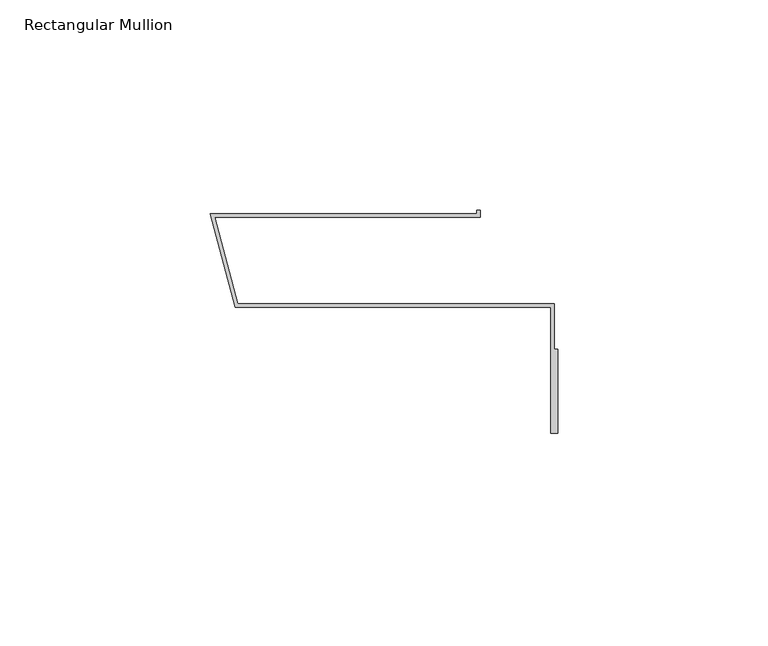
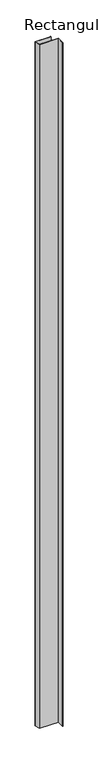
"""IFC4 building model written with IfcOpenShell, lengths in millimetres: member geometry, Rectangular Mullion : TE-V-05_01_Internal corner i L."""

from ifc_helpers import new_model, si_unit, frame, origin, place, context, project, spatial, polyline, outline, extrude, source, transform, mapped, element, save


def rectangular_mullion_a0e06837(model_context):
    return source(origin(), model_context, "Body", "SweptSolid", [
        extrude(outline(polyline([(-1.6, -23.0), (-76.6, -23.0), (-82.5484721, -0.8), (-19.2, -0.8), (-19.2, 0.0), (-18.4, 0.0), (-18.4, -1.6), (-81.5058918, -1.6), (-75.9861384, -22.2), (-0.8, -22.2), (-0.8, -33.0), (0.0, -33.0), (0.0, -53.0), (-1.6, -53.0), (-1.6, -23.0)])), frame((0.0, 0.0, -2885.745084), z_axis=(0.0, 0.0, 1.0), x_axis=(1.0, 0.0, 0.0)), (0.0, 0.0, 1.0), 2885.745084),
    ])


if __name__ == "__main__":
    model = new_model("IFC4")
    model_context = context("Model", 3, world=origin())
    ifc_project = project(units=[si_unit("LENGTHUNIT", "METRE", prefix="MILLI")], contexts=[model_context])
    site = spatial("IfcSite", under=ifc_project)
    building = spatial("IfcBuilding", under=site)
    placement = place(None, origin())
    rectangular_mullion_shape = rectangular_mullion_a0e06837(model_context)
    element("IfcMember", 1, ObjectType="Rectangular Mullion : TE-V-05_01_Internal corner i L", at=placement, inside=building, context=model_context, shape_type="MappedRepresentation", body=[
        mapped(rectangular_mullion_shape, transform((0.0, 0.0, 0.0), x_axis=(1.0, 0.0, 0.0), y_axis=(0.0, 1.0, 0.0), z_axis=(0.0, 0.0, 1.0))),
    ])
    save(model, "model.ifc")
